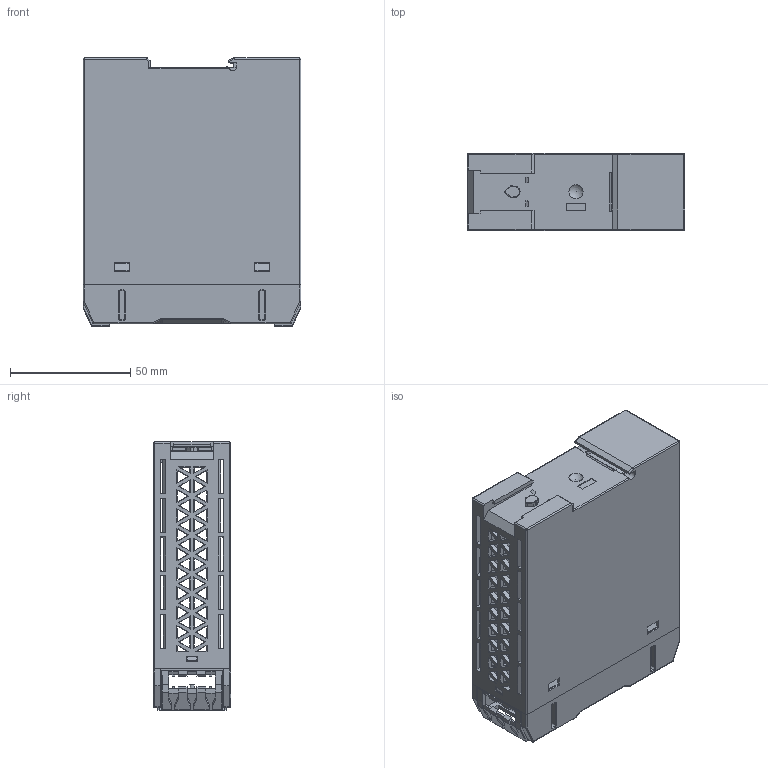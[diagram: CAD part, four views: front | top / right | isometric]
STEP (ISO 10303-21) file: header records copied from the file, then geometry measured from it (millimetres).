
FILE_DESCRIPTION(/* description */ (''),/* implementation_level */ '2;1');
FILE_NAME(/* name */ 'LEYU-shukong.stp',/* time_stamp */ '2024-10-25T14:20:31+08:00',/* author */ (''),/* organization */ (''),/* preprocessor_version */ 'ST-DEVELOPER v16',/* originating_system */ 'SIEMENS PLM Software NX 10.0',/* authorisation */ '');
FILE_SCHEMA (('AP203_CONFIGURATION_CONTROLLED_3D_DESIGN_OF_MECHANICAL_PARTS_AND_ASSEMBLIES_MIM_LF { 1 0 10303 403 2 1 2}'));
Length unit declared in the file: millimetre
Products named in the file (1): dddd376027C5w09s
Bounding box: 90.54 x 32.19 x 111.46 mm (x, y, z)
Volume: 50653.1 mm3; surface area: 67019.7 mm2
Topology: 2 solids, 2 shells, 1223 faces, 3507 edges, 2270 vertices
Faces by surface type: plane 967, cylinder 177, torus 26, cone 23, bspline 16, sphere 14
Full cylindrical faces by diameter (mm): 4.125 x1, 4.527 x3
Entity records: 39824 total; most frequent: CARTESIAN_POINT 7281, ORIENTED_EDGE 6928, DIRECTION 6276, EDGE_CURVE 3464, LINE 3026, VECTOR 3026, VERTEX_POINT 2258, AXIS2_PLACEMENT_3D 1625
